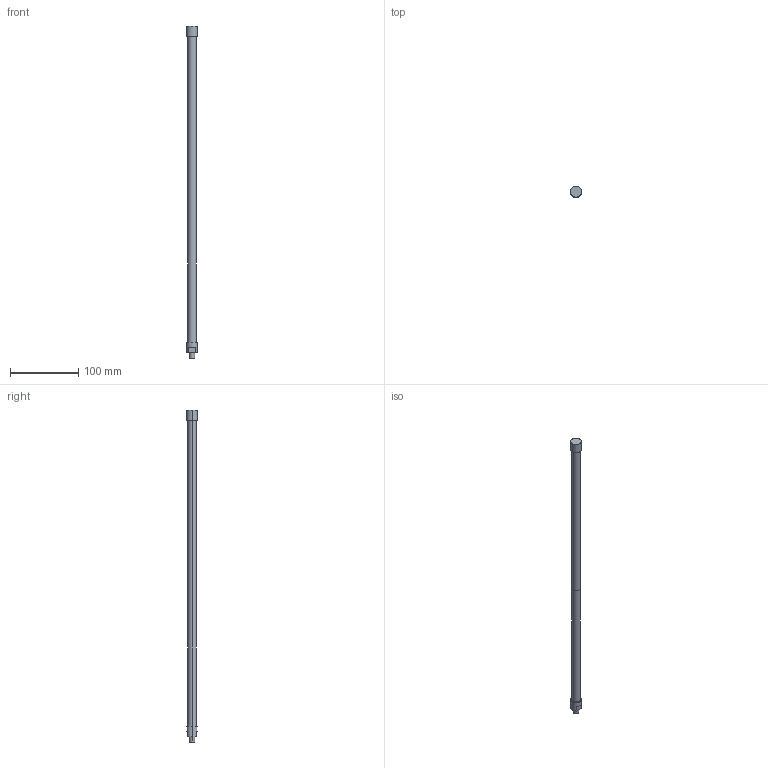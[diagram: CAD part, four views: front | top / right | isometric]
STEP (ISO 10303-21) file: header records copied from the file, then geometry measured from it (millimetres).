
FILE_DESCRIPTION(('STEP AP214'),'1');
FILE_NAME('C:/Users/Autocad/Desktop/L485-C300 MN.stp','2014-02-10T09:28:11',(' '),(' '),'Spatial InterOp 3D',' ',' ');
FILE_SCHEMA(('automotive_design'));
Length unit declared in the file: metre
Products named in the file (2): 1; 2
Bounding box: 16 x 16 x 485 mm (x, y, z)
Volume: 37712.3 mm3; surface area: 26495.5 mm2
Topology: 1 solids, 5 shells, 27 faces, 62 edges, 46 vertices
Faces by surface type: cylinder 14, plane 13
Entity records: 1056 total; most frequent: DIRECTION 158, CARTESIAN_POINT 137, ORIENTED_EDGE 112, AXIS2_PLACEMENT_3D 67, EDGE_CURVE 62, VERTEX_POINT 46, CIRCLE 38, EDGE_LOOP 32
